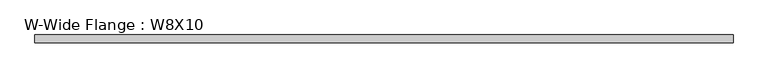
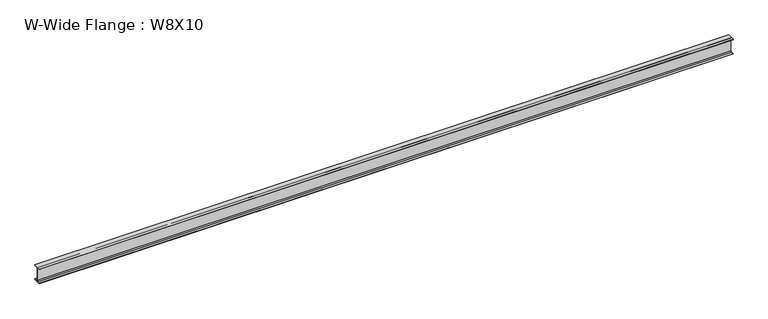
"""IFC4 building model written with IfcOpenShell, lengths in millimetres: beam geometry, W-Wide Flange : W8X10."""

import ifcopenshell
import ifcopenshell.guid

model = None  # the IFC model being written
_history = None  # IfcOwnerHistory: only IFC2X3 demands one
_inside = {}  # id of a spatial element -> (the spatial element, [elements in it])
_under = {}  # id of a project, library or spatial element -> (it, [spatial elements below it])
_declared = {}  # id of a project -> (the project, [libraries it declares])
_typed = {}  # id of a type object -> (the type object, [elements of that type])
_made_of = {}  # id of a material, layer set ... -> (it, [elements and type objects made of it])


def new_model(schema):
    """Start an empty IFC model of exactly this schema.

    Asked for "IFC4X3", IfcOpenShell would pick the latest addendum, in which some entities
    have other attributes; the version numbers below select the first issue.
    IFC2X3 requires an IfcOwnerHistory on every rooted entity: one is made here for all.
    """
    global model, _history
    if schema == "IFC4X3":
        model = ifcopenshell.file(schema_version=(4, 3, 0, 0))
    else:
        model = ifcopenshell.file(schema=schema)
    _inside.clear()
    _under.clear()
    _declared.clear()
    _typed.clear()
    _made_of.clear()
    _history = None
    if model.schema == "IFC2X3":
        org = make("IfcOrganization", Name="unknown")
        user = make(
            "IfcPersonAndOrganization",
            ThePerson=make("IfcPerson", FamilyName="unknown"),
            TheOrganization=org,
        )
        app = make(
            "IfcApplication",
            ApplicationDeveloper=org,
            Version="unknown",
            ApplicationFullName="unknown",
            ApplicationIdentifier="unknown",
        )
        _history = make(
            "IfcOwnerHistory",
            OwningUser=user,
            OwningApplication=app,
            ChangeAction="ADDED",
            CreationDate=0,
        )
    return model


def make(cls, **values):
    """One entity of the class cls with the attributes given. An attribute that is None is left unset."""
    return model.create_entity(
        cls, **{name: value for name, value in values.items() if value is not None}
    )


def rooted(cls, **values):
    """An entity with a GlobalId (a new one), such as an element, a storey or a relation."""
    return make(cls, GlobalId=ifcopenshell.guid.new(), OwnerHistory=_history, **values)


def si_unit(unit_type, name, prefix=None):
    """IfcSIUnit, for example si_unit("LENGTHUNIT", "METRE", prefix="MILLI")."""
    return make("IfcSIUnit", UnitType=unit_type, Prefix=prefix, Name=name)


def assignment(units):
    """IfcUnitAssignment: the units of a project."""
    return None if units is None else make("IfcUnitAssignment", Units=units)


def point(xyz):
    """IfcCartesianPoint."""
    return None if xyz is None else make("IfcCartesianPoint", Coordinates=xyz)


def direction(xyz):
    """IfcDirection."""
    return None if xyz is None else make("IfcDirection", DirectionRatios=xyz)


def frame(location, z_axis=None, x_axis=None):
    """IfcAxis2Placement3D, a coordinate frame: its origin and axes. An axis left out is left unset."""
    return make(
        "IfcAxis2Placement3D",
        Location=point(location),
        Axis=direction(z_axis),
        RefDirection=direction(x_axis),
    )


def frame_2d(location, x_axis=None):
    """IfcAxis2Placement2D, a coordinate frame in the plane: its origin and x axis."""
    return make(
        "IfcAxis2Placement2D", Location=point(location), RefDirection=direction(x_axis)
    )


def origin():
    """The frame at (0, 0, 0) with its axes left unset."""
    return frame((0.0, 0.0, 0.0))


def place(relative_to, where):
    """IfcLocalPlacement: puts the frame where relative to a parent placement (None: the world)."""
    return make(
        "IfcLocalPlacement", PlacementRelTo=relative_to, RelativePlacement=where
    )


def context(
    kind, dimensions, precision=None, world=None, true_north=None, identifier=None
):
    """IfcGeometricRepresentationContext, for example the 3D "Model" context."""
    return make(
        "IfcGeometricRepresentationContext",
        ContextIdentifier=identifier,
        ContextType=kind,
        CoordinateSpaceDimension=dimensions,
        Precision=precision,
        WorldCoordinateSystem=world,
        TrueNorth=true_north,
    )


def project(units=None, contexts=None):
    """IfcProject with its units and contexts."""
    return rooted(
        "IfcProject",
        Name="project",
        RepresentationContexts=contexts,
        UnitsInContext=assignment(units),
    )


def spatial(cls, under=None, at=None, **own):
    """A site, building, storey or space (cls), placed at a placement, below another one or the project."""
    s = rooted(cls, ObjectPlacement=at, **own)
    if under is not None:
        _under.setdefault(under.id(), (under, []))[1].append(s)
    return s


def polyline(points):
    """IfcPolyline through the points."""
    return make("IfcPolyline", Points=[point(p) for p in points])


def circle_curve(where, radius):
    """IfcCircle in the frame where."""
    return make("IfcCircle", Position=where, Radius=radius)


def trimmed(basis, trim1, trim2, sense, master):
    """IfcTrimmedCurve: the piece of a basis curve between two trims."""
    return make(
        "IfcTrimmedCurve",
        BasisCurve=basis,
        Trim1=trim1,
        Trim2=trim2,
        SenseAgreement=sense,
        MasterRepresentation=master,
    )


def segment(curve, same_sense, transition):
    """IfcCompositeCurveSegment."""
    return make(
        "IfcCompositeCurveSegment",
        Transition=transition,
        SameSense=same_sense,
        ParentCurve=curve,
    )


def composite_curve(segments, self_intersect=None):
    """IfcCompositeCurve: segments joined end to end."""
    return make("IfcCompositeCurve", Segments=segments, SelfIntersect=self_intersect)


def outline(outer, holes=None, kind="AREA"):
    """IfcArbitraryClosedProfileDef: a profile drawn as a closed curve; with holes, ...WithVoids."""
    if holes is None:
        return make("IfcArbitraryClosedProfileDef", ProfileType=kind, OuterCurve=outer)
    return make(
        "IfcArbitraryProfileDefWithVoids",
        ProfileType=kind,
        OuterCurve=outer,
        InnerCurves=holes,
    )


def extrude(swept, where, along, depth):
    """IfcExtrudedAreaSolid: the profile swept, set in the frame where, extruded along a direction by depth."""
    return make(
        "IfcExtrudedAreaSolid",
        SweptArea=swept,
        Position=where,
        ExtrudedDirection=direction(along),
        Depth=depth,
    )


def shape(context_of_items, identifier, shape_type, items):
    """IfcShapeRepresentation: the items that make up one representation, for example the "Body"."""
    return make(
        "IfcShapeRepresentation",
        ContextOfItems=context_of_items,
        RepresentationIdentifier=identifier,
        RepresentationType=shape_type,
        Items=items,
    )


def source(mapping_origin, context_of_items, identifier, shape_type, items):
    """IfcRepresentationMap: a shape defined once, which mapped items show again and again."""
    return make(
        "IfcRepresentationMap",
        MappingOrigin=mapping_origin,
        MappedRepresentation=shape(context_of_items, identifier, shape_type, items),
    )


def transform(
    local_origin,
    x_axis=None,
    y_axis=None,
    z_axis=None,
    scale=None,
    scale2=None,
    scale3=None,
    uniform=True,
):
    """IfcCartesianTransformationOperator3D, or its non-uniform kind. x_axis, y_axis, z_axis: its Axis1, 2, 3."""
    if uniform:
        return make(
            "IfcCartesianTransformationOperator3D",
            Axis1=direction(x_axis),
            Axis2=direction(y_axis),
            LocalOrigin=point(local_origin),
            Scale=scale,
            Axis3=direction(z_axis),
        )
    return make(
        "IfcCartesianTransformationOperator3DnonUniform",
        Axis1=direction(x_axis),
        Axis2=direction(y_axis),
        LocalOrigin=point(local_origin),
        Scale=scale,
        Axis3=direction(z_axis),
        Scale2=scale2,
        Scale3=scale3,
    )


def mapped(mapping_source, mapping_target):
    """IfcMappedItem: shows the shape of a source again, moved by a transform."""
    return make(
        "IfcMappedItem", MappingSource=mapping_source, MappingTarget=mapping_target
    )


def made_of(thing, what):
    """Note that an element or type object is made of a material, layer set ...; save() writes the relation."""
    if what is not None:
        _made_of.setdefault(what.id(), (what, []))[1].append(thing)
    return thing


def element(
    cls,
    number,
    at=None,
    inside=None,
    cuts=None,
    type_object=None,
    material=None,
    context=None,
    identifier="Body",
    shape_type=None,
    held_by="IfcProductDefinitionShape",
    body=None,
    shapes=None,
    **own,
):
    """One element of the class cls, such as IfcWall. Its Tag is "e" and its number.

    at: its placement. inside: the storey or other place that contains it. cuts: it is an
    opening in that element (IfcRelVoidsElement). A single representation is given by context,
    identifier, shape_type and body (its items); several are given by shapes. held_by: the class
    of the entity that holds the representations. save() writes the other relations.
    """
    e = rooted(cls, Tag="e%d" % number, ObjectPlacement=at, **own)
    if body is not None:
        shapes = [shape(context, identifier, shape_type, body)]
    if shapes is not None:
        e.Representation = make(held_by, Representations=shapes)
    if inside is not None:
        _inside.setdefault(inside.id(), (inside, []))[1].append(e)
    if cuts is not None:
        rooted(
            "IfcRelVoidsElement", RelatingBuildingElement=cuts, RelatedOpeningElement=e
        )
    if type_object is not None:
        _typed.setdefault(type_object.id(), (type_object, []))[1].append(e)
    return made_of(e, material)


def aggregate(whole, parts):
    """IfcRelAggregates: a whole, such as a stair, and the parts it consists of."""
    return rooted("IfcRelAggregates", RelatingObject=whole, RelatedObjects=parts)


def save(model, path):
    """Write the relations noted so far, then the file.

    IfcRelAggregates (storeys below a building ...), IfcRelContainedInSpatialStructure (elements
    in a storey), IfcRelDefinesByType, IfcRelAssociatesMaterial and IfcRelDeclares: one each for
    every whole, place, type object, material and project.
    """
    for whole, parts in _under.values():
        aggregate(whole, parts)
    for where, things in _inside.values():
        rooted(
            "IfcRelContainedInSpatialStructure",
            RelatedElements=things,
            RelatingStructure=where,
        )
    for kind, things in _typed.values():
        rooted("IfcRelDefinesByType", RelatedObjects=things, RelatingType=kind)
    for what, things in _made_of.values():
        rooted("IfcRelAssociatesMaterial", RelatedObjects=things, RelatingMaterial=what)
    for by, libraries in _declared.values():
        rooted("IfcRelDeclares", RelatingContext=by, RelatedDefinitions=libraries)
    model.write(path)


def w_wide_flange_w8x10_78d70445(model_context):
    return source(origin(), model_context, "Body", "SweptSolid", [
        extrude(outline(composite_curve([segment(polyline([(50.0558594, -95.0515625), (50.0558594, -100.2109375), (-50.0558594, -100.2109375), (-50.0558594, -95.0515625), (-14.4859375, -95.0515625)]), True, "CONTINUOUS"), segment(trimmed(circle_curve(frame_2d((-14.4859375, -82.7484375)), 12.303125), [point((-14.4859375, -95.0515625))], [point((-2.1828125, -82.7484375))], True, "CARTESIAN"), True, "CONTINUOUS"), segment(polyline([(-2.1828125, -82.7484375), (-2.1828125, 82.7484375)]), True, "CONTINUOUS"), segment(trimmed(circle_curve(frame_2d((-14.4859375, 82.7484375)), 12.303125), [point((-2.1828125, 82.7484375))], [point((-14.4859375, 95.0515625))], True, "CARTESIAN"), True, "CONTINUOUS"), segment(polyline([(-14.4859375, 95.0515625), (-50.0558594, 95.0515625), (-50.0558594, 100.2109375), (50.0558594, 100.2109375), (50.0558594, 95.0515625), (14.4859375, 95.0515625)]), True, "CONTINUOUS"), segment(trimmed(circle_curve(frame_2d((14.4859375, 82.7484375)), 12.303125), [point((14.4859375, 95.0515625))], [point((2.1828125, 82.7484375))], True, "CARTESIAN"), True, "CONTINUOUS"), segment(polyline([(2.1828125, 82.7484375), (2.1828125, -82.7484375)]), True, "CONTINUOUS"), segment(trimmed(circle_curve(frame_2d((14.4859375, -82.7484375)), 12.303125), [point((2.1828125, -82.7484375))], [point((14.4859375, -95.0515625))], True, "CARTESIAN"), True, "CONTINUOUS"), segment(polyline([(14.4859375, -95.0515625), (50.0558594, -95.0515625)]), True, "CONTINUOUS")], self_intersect=False)), frame((-4489.45, 0.0, 0.0), z_axis=(1.0, 0.0, 0.0), x_axis=(0.0, 1.0, 0.0)), (0.0, 0.0, 1.0), 8978.9),
    ])


if __name__ == "__main__":
    model = new_model("IFC4")
    model_context = context("Model", 3, world=origin())
    ifc_project = project(units=[si_unit("LENGTHUNIT", "METRE", prefix="MILLI")], contexts=[model_context])
    site = spatial("IfcSite", under=ifc_project)
    building = spatial("IfcBuilding", under=site)
    placement = place(None, origin())
    w_wide_flange_w8x10_shape = w_wide_flange_w8x10_78d70445(model_context)
    element("IfcBeam", 1, ObjectType="W-Wide Flange : W8X10", at=placement, inside=building, context=model_context, shape_type="MappedRepresentation", body=[
        mapped(w_wide_flange_w8x10_shape, transform((0.0, 0.0, 0.0), x_axis=(1.0, 0.0, 0.0), y_axis=(0.0, 1.0, 0.0), z_axis=(0.0, 0.0, 1.0))),
    ])
    save(model, "model.ifc")
